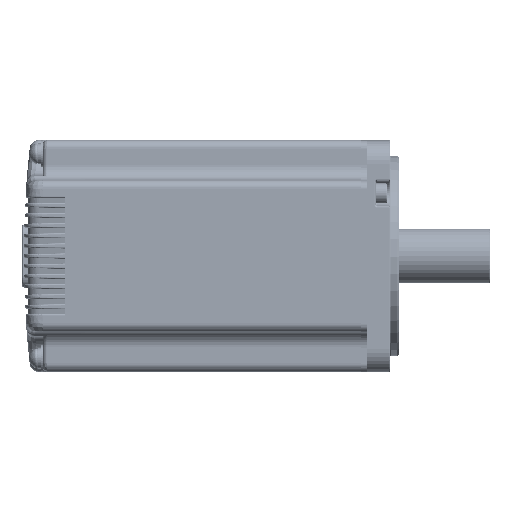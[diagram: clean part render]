
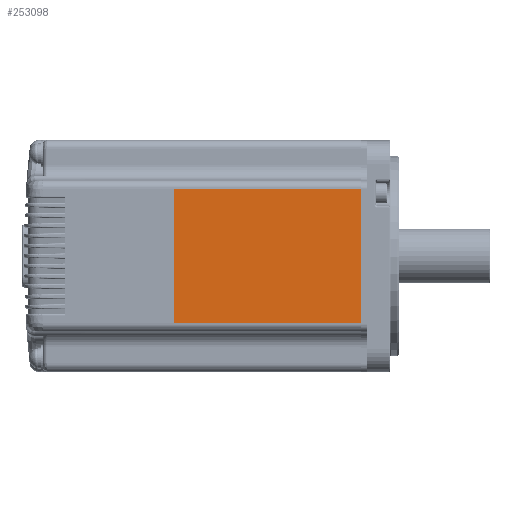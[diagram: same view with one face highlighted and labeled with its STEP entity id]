
A CAD part, front view. The second image highlights one B-rep face of the part: STEP entity #253098.
In plain terms, the highlighted planar face has unit normal (0, -1, 0).
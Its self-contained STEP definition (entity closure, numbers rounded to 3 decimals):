
#247625=DIRECTION('',(-1.,0.,0.));
#247626=VECTOR('',#247625,47.);
#247627=CARTESIAN_POINT('',(263.859,0.,10.));
#247628=LINE('',#247627,#247626);
#248756=DIRECTION('',(0.,0.,1.));
#248757=VECTOR('',#248756,65.5);
#248758=CARTESIAN_POINT('',(216.859,0.,10.));
#248759=LINE('',#248758,#248757);
#248770=DIRECTION('',(-1.,0.,0.));
#248771=VECTOR('',#248770,47.);
#248772=CARTESIAN_POINT('',(263.859,0.,75.5));
#248773=LINE('',#248772,#248771);
#248784=DIRECTION('',(0.,0.,-1.));
#248785=VECTOR('',#248784,65.5);
#248786=CARTESIAN_POINT('',(263.859,0.,75.5));
#248787=LINE('',#248786,#248785);
#251014=CARTESIAN_POINT('',(263.859,0.,10.));
#251016=VERTEX_POINT('',#251014);
#251283=CARTESIAN_POINT('',(263.859,0.,75.5));
#251284=CARTESIAN_POINT('',(216.859,0.,75.5));
#251285=VERTEX_POINT('',#251283);
#251286=VERTEX_POINT('',#251284);
#251441=CARTESIAN_POINT('',(216.859,0.,10.));
#251442=VERTEX_POINT('',#251441);
#253086=CARTESIAN_POINT('',(216.859,0.,10.));
#253087=DIRECTION('',(0.,-1.,0.));
#253088=DIRECTION('',(0.,0.,-1.));
#253089=AXIS2_PLACEMENT_3D('',#253086,#253087,#253088);
#253090=PLANE('',#253089);
#253091=ORIENTED_EDGE('',*,*,#251978,.F.);
#253093=ORIENTED_EDGE('',*,*,#253092,.T.);
#253094=ORIENTED_EDGE('',*,*,#252179,.T.);
#253095=ORIENTED_EDGE('',*,*,#253067,.T.);
#253096=EDGE_LOOP('',(#253091,#253093,#253094,#253095));
#253097=FACE_OUTER_BOUND('',#253096,.F.);
#253098=ADVANCED_FACE('',(#253097),#253090,.T.);
#251978=EDGE_CURVE('',#251285,#251286,#248773,.T.);
#252179=EDGE_CURVE('',#251016,#251442,#247628,.T.);
#253067=EDGE_CURVE('',#251442,#251286,#248759,.T.);
#253092=EDGE_CURVE('',#251285,#251016,#248787,.T.);
